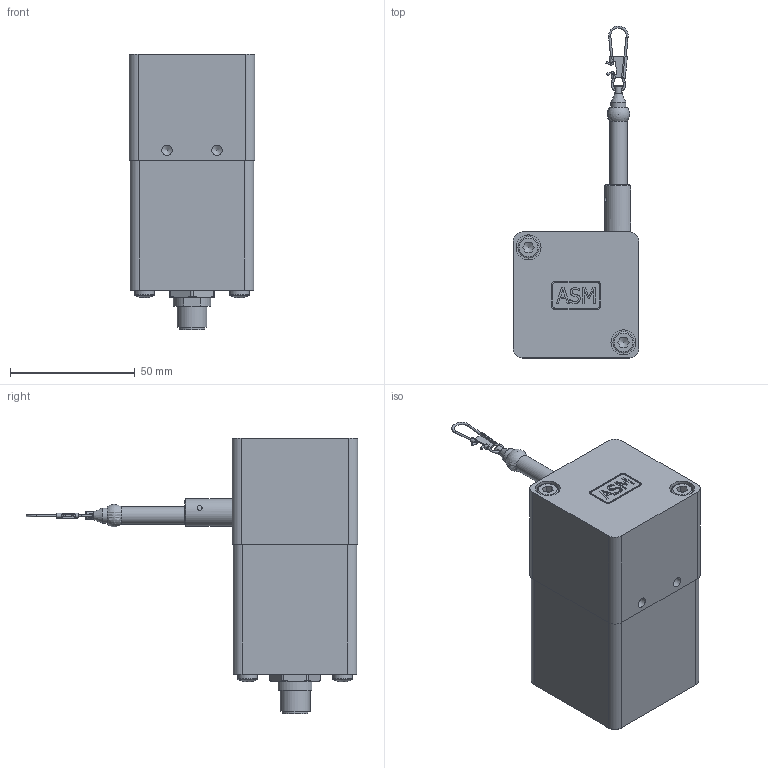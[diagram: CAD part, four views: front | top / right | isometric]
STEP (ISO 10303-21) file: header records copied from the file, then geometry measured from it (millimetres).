
FILE_DESCRIPTION((''),'2;1');
FILE_NAME('K:\Daten\WS10-SB0.stp','2009-12-08T08:28:22',('kamp'),(''),'Autodesk Inventor 2008','Autodesk Inventor 2008','');
FILE_SCHEMA(('AUTOMOTIVE_DESIGN { 1 0 10303 214 1 1 1 1 }'));
Length unit declared in the file: millimetre
Products named in the file (1): Bauteil9
Bounding box: 50.35 x 132.8 x 110.4 mm (x, y, z)
Surface area: 27508.2 mm2 (no closed solid volume)
Topology: 0 solids, 1 shells, 291 faces, 755 edges, 491 vertices
Faces by surface type: plane 155, cylinder 61, bspline 58, cone 9, torus 7, sphere 1
Full cylindrical faces by diameter (mm): 0.6 x8, 0.8 x1, 0.9 x7, 1.5 x1, 3 x1, 6 x1, 7 x1, 8 x2, 8.5 x2, 10.4 x1, 12 x1
Entity records: 10999 total; most frequent: CARTESIAN_POINT 4686, ORIENTED_EDGE 1310, DIRECTION 1142, EDGE_CURVE 655, VERTEX_POINT 458, EDGE_LOOP 395, AXIS2_PLACEMENT_3D 390, VECTOR 362
